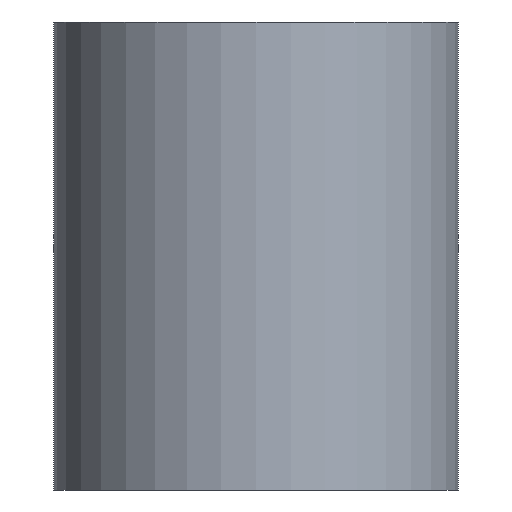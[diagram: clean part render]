
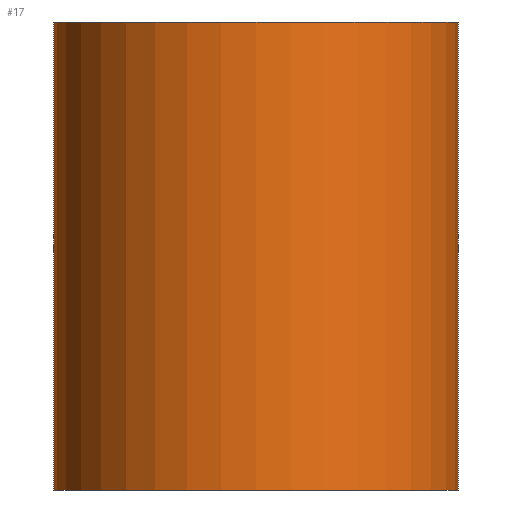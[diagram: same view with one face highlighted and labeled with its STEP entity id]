
A CAD part, front view. The second image highlights one B-rep face of the part: STEP entity #17.
In plain terms, the highlighted cylindrical face has radius 54 mm (diameter 108 mm), a full revolution.
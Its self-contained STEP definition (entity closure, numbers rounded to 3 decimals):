
#17 = ADVANCED_FACE('',(#18),#45,.T.);
#18 = FACE_BOUND('',#19,.T.);
#19 = EDGE_LOOP('',(#20,#29,#37,#44));
#20 = ORIENTED_EDGE('',*,*,#21,.F.);
#21 = EDGE_CURVE('',#22,#22,#24,.T.);
#22 = VERTEX_POINT('',#23);
#23 = CARTESIAN_POINT('',(54.,0.,125.));
#24 = CIRCLE('',#25,54.);
#25 = AXIS2_PLACEMENT_3D('',#26,#27,#28);
#26 = CARTESIAN_POINT('',(0.,0.,125.));
#27 = DIRECTION('',(0.,0.,1.));
#28 = DIRECTION('',(1.,0.,-0.));
#29 = ORIENTED_EDGE('',*,*,#30,.F.);
#30 = EDGE_CURVE('',#31,#22,#33,.T.);
#31 = VERTEX_POINT('',#32);
#32 = CARTESIAN_POINT('',(54.,0.,0.));
#33 = LINE('',#34,#35);
#34 = CARTESIAN_POINT('',(54.,0.,0.));
#35 = VECTOR('',#36,1.);
#36 = DIRECTION('',(0.,0.,1.));
#37 = ORIENTED_EDGE('',*,*,#38,.T.);
#38 = EDGE_CURVE('',#31,#31,#39,.T.);
#39 = CIRCLE('',#40,54.);
#40 = AXIS2_PLACEMENT_3D('',#41,#42,#43);
#41 = CARTESIAN_POINT('',(0.,0.,0.));
#42 = DIRECTION('',(0.,0.,1.));
#43 = DIRECTION('',(1.,0.,-0.));
#44 = ORIENTED_EDGE('',*,*,#30,.T.);
#45 = CYLINDRICAL_SURFACE('',#46,54.);
#46 = AXIS2_PLACEMENT_3D('',#47,#48,#49);
#47 = CARTESIAN_POINT('',(0.,0.,0.));
#48 = DIRECTION('',(0.,0.,1.));
#49 = DIRECTION('',(1.,0.,-0.));
